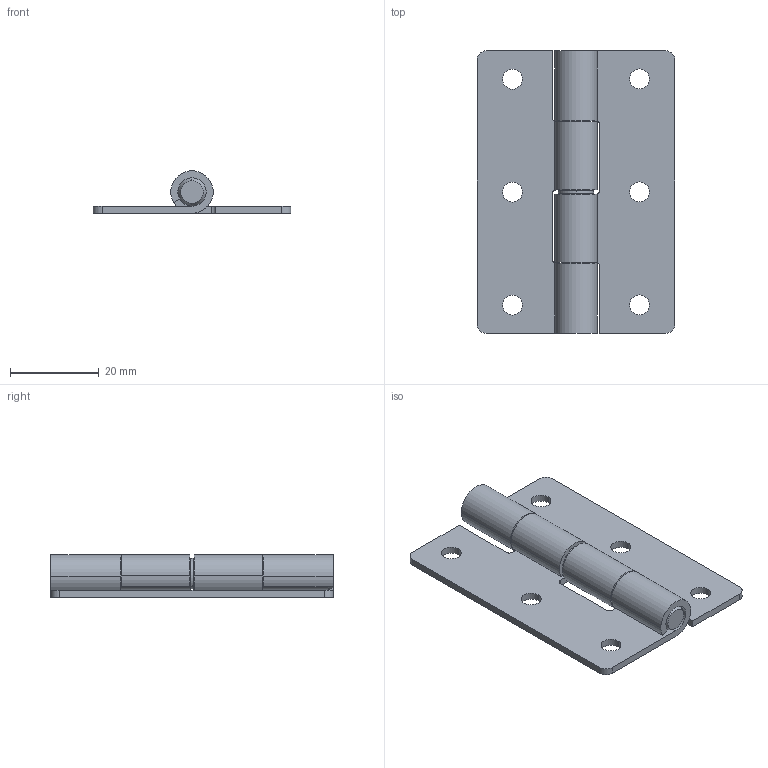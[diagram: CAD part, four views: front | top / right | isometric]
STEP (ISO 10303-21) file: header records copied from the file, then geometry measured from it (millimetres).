
FILE_DESCRIPTION(('STEP AP214'),'1');
FILE_NAME('C:/Users/HAN/Desktop/2000-0701-HNG Rev 0_0.stp','2012-12-04T04:08:38',(' '),(' '),'Spatial InterOp 3D',' ',' ');
FILE_SCHEMA(('automotive_design'));
Length unit declared in the file: inch
Products named in the file (4): 2000-0701-BND Rev 0_0; 2000-0003-SHA Rev 0_0; Snap Ring 2000-25
Bounding box: 44.45 x 63.5 x 9.55 mm (x, y, z)
Volume: 7870.8 mm3; surface area: 9680.4 mm2
Topology: 4 solids, 4 shells, 102 faces, 272 edges, 180 vertices
Faces by surface type: cylinder 62, plane 36, cone 4
Entity records: 4133 total; most frequent: DIRECTION 612, CARTESIAN_POINT 558, ORIENTED_EDGE 544, EDGE_CURVE 272, AXIS2_PLACEMENT_3D 234, VERTEX_POINT 180, LINE 144, VECTOR 144
